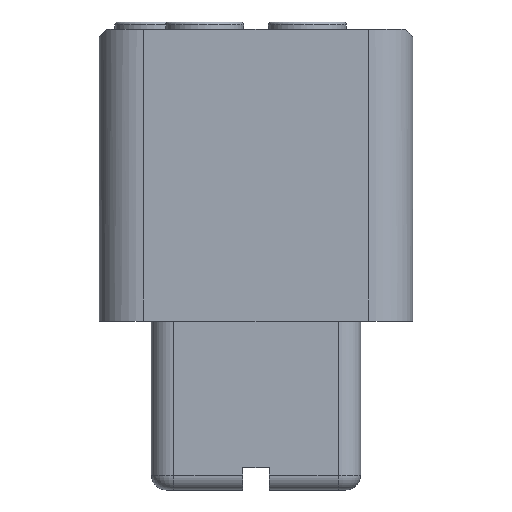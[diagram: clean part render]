
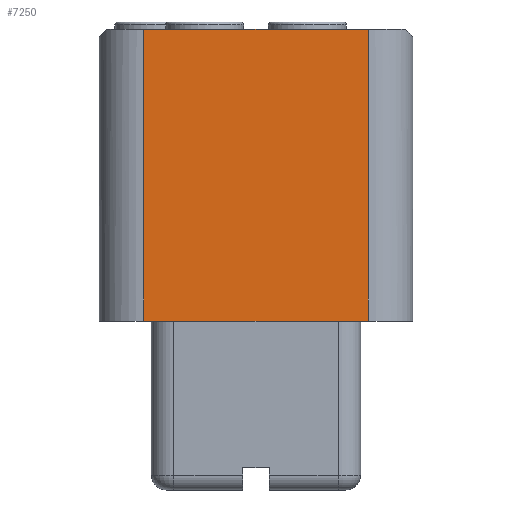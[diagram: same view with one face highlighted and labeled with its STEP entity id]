
A CAD part, front view. The second image highlights one B-rep face of the part: STEP entity #7250.
In plain terms, the highlighted planar face has unit normal (0, -1, 0) as drawn and (0, 1, 0) by its records, which use the part's own axes.
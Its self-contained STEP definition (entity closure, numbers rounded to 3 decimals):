
#6860=CARTESIAN_POINT('',(-53.688,-36.165,15.5));
#6870=DIRECTION('',(0.,-1.,0.));
#6880=DIRECTION('',(1.,0.,0.));
#6890=AXIS2_PLACEMENT_3D('',#6860,#6870,#6880);
#6900=PLANE('',#6890);
#6910=CARTESIAN_POINT('',(0.,-36.165,36.));
#6920=DIRECTION('',(-1.,0.,0.));
#6930=VECTOR('',#6920,1.);
#6940=LINE('',#6910,#6930);
#6950=CARTESIAN_POINT('',(-41.188,-36.165,36.));
#6960=VERTEX_POINT('',#6950);
#6970=CARTESIAN_POINT('',(-56.188,-36.165,36.));
#6980=VERTEX_POINT('',#6970);
#6990=EDGE_CURVE('',#6960,#6980,#6940,.T.);
#7000=ORIENTED_EDGE('',*,*,#6990,.F.);
#7010=CARTESIAN_POINT('',(-56.188,-36.165,24.));
#7020=DIRECTION('',(0.,0.,1.));
#7030=VECTOR('',#7020,1.);
#7040=LINE('',#7010,#7030);
#7050=CARTESIAN_POINT('',(-56.188,-36.165,16.5));
#7060=VERTEX_POINT('',#7050);
#7070=EDGE_CURVE('',#7060,#6980,#7040,.T.);
#7080=ORIENTED_EDGE('',*,*,#7070,.T.);
#7090=CARTESIAN_POINT('',(-0.782,-36.165,16.5
));
#7100=DIRECTION('',(1.,0.,0.));
#7110=VECTOR('',#7100,1.);
#7120=LINE('',#7090,#7110);
#7130=CARTESIAN_POINT('',(-41.188,-36.165,16.5));
#7140=VERTEX_POINT('',#7130);
#7150=EDGE_CURVE('',#7060,#7140,#7120,.T.);
#7160=ORIENTED_EDGE('',*,*,#7150,.F.);
#7170=CARTESIAN_POINT('',(-41.188,-36.165,17.5));
#7180=DIRECTION('',(0.,0.,-1.));
#7190=VECTOR('',#7180,1.);
#7200=LINE('',#7170,#7190);
#7210=EDGE_CURVE('',#6960,#7140,#7200,.T.);
#7220=ORIENTED_EDGE('',*,*,#7210,.T.);
#7230=EDGE_LOOP('',(#7220,#7160,#7080,#7000));
#7240=FACE_OUTER_BOUND('',#7230,.T.);
#7250=ADVANCED_FACE('',(#7240),#6900,.F.);
